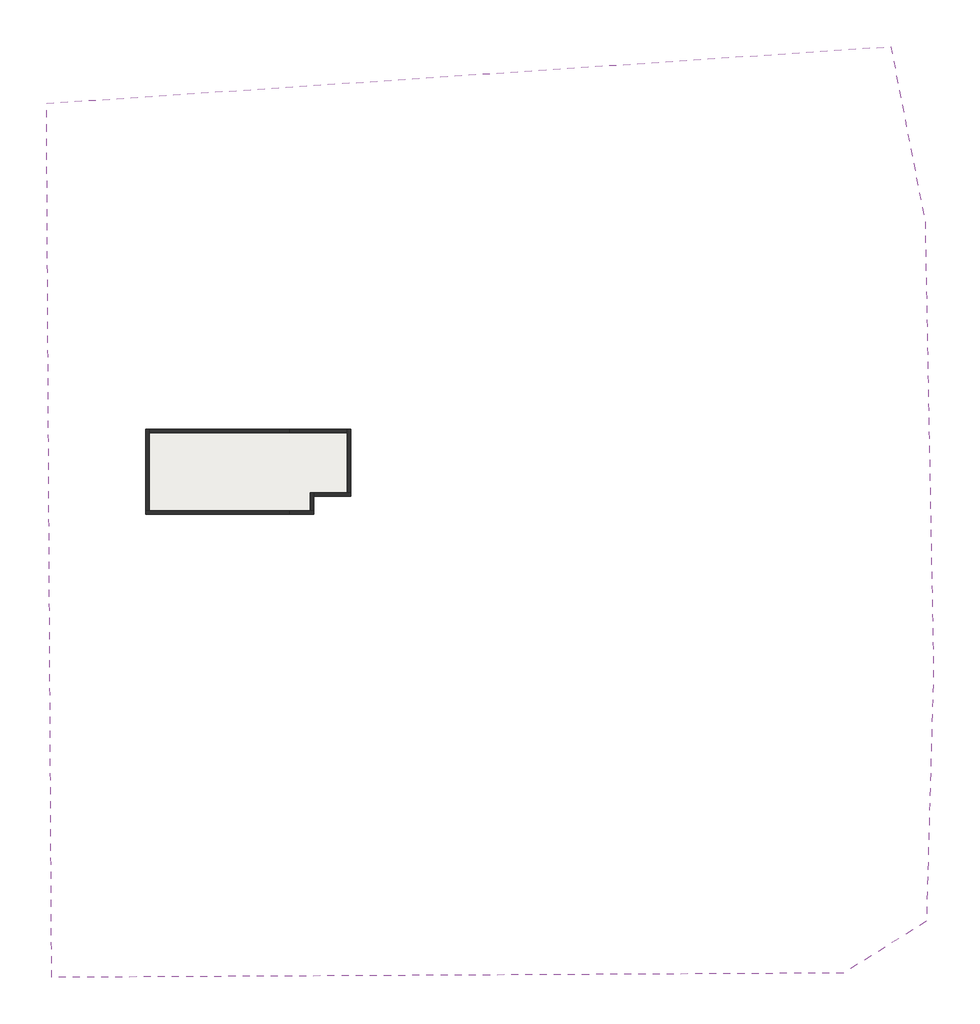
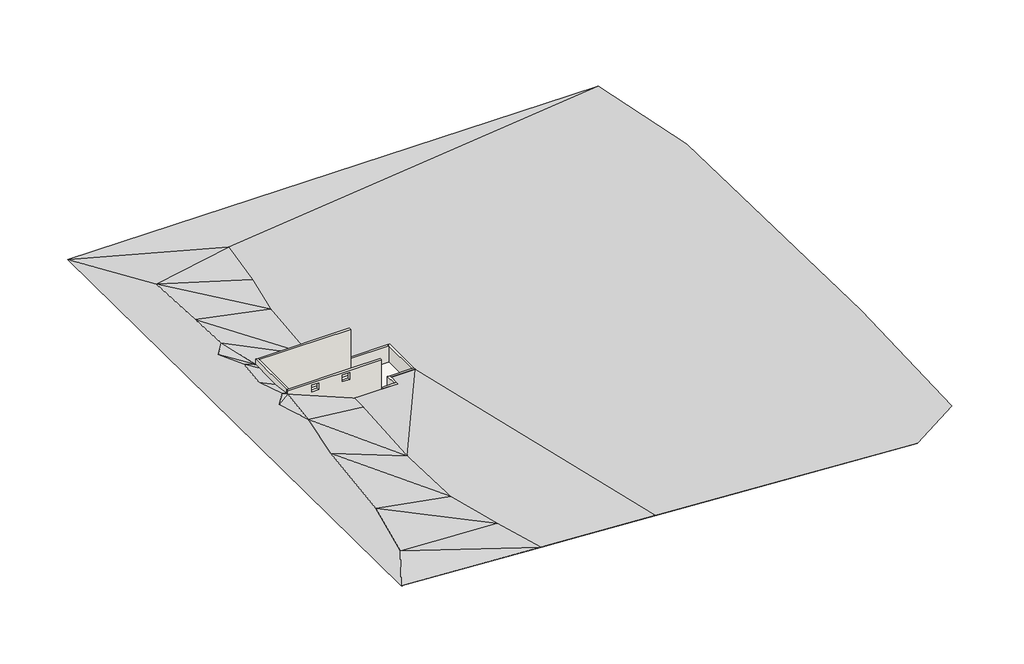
# One storey, incomplete: 8 walls, 1 proxy, 1 slab.
"""IFC4 building model written with IfcOpenShell, lengths in millimetres."""

from ifc_helpers import new_model, si_unit, frame, origin, place, context, project, spatial, polyline, outline, extrude, faceted_brep, triangles, element, save

model = new_model("IFC4")

# Units and contexts
model_context = context("Model", 3, world=origin())
ifc_project = project(units=[si_unit("LENGTHUNIT", "METRE", prefix="MILLI")], contexts=[model_context])

# Site, building, storey
site = spatial("IfcSite", under=ifc_project)
building = spatial("IfcBuilding", under=site)
storey = spatial("IfcBuildingStorey", under=building, Name="00 基礎", Elevation=-6200.0)

# Proxy
placement = place(None, origin())
element("IfcBuildingElementProxy", 1, Name="Building Element Proxy", at=placement, inside=storey, context=model_context, shape_type="Tessellation", body=[
    triangles([(-14965.9388214, 28798.1026611, -150.0000011), (-14529.5201111, -45342.6834961, -150.0000011), (52630.4572632, -44975.0687256, -4300.0000328), (59655.572644, -40578.2719849, -4300.0000328), (60256.7964111, -19268.1657532, -4300.0000328), (59546.2583862, 18748.4532898, -4300.0000328), (56633.7477905, 33612.3250854, -4300.0000328), (10852.9445251, 1150.8362223, -4046.0030365), (10852.9445251, -3616.8292328, -4045.7914215), (10852.9445251, -4549.1638939, -4045.7914215), (7702.9443558, -4549.1638939, -4029.3464951), (7702.9443558, -6049.1639053, -4029.3464951), (2081.679332, -6049.1639053, -4000.0000305), (-6547.0556076, -6049.1639053, -442.9919646), (-6547.0556076, -5886.2348969, -442.9919646), (-6547.0556076, -3182.6324799, -834.3541592), (-6547.0556076, 344.536964, -732.2365551), (-6547.0556076, 1150.8362223, -734.849477), (2032.1528492, 1150.8362223, -4000.0000305), (-8473.7333542, 11435.2845612, -150.0000011), (-9614.8782349, 4243.3642456, -150.0000011), (-9997.4758118, 854.6418743, -150.0000011), (-12457.0326599, 1873.9914276, -150.0000011), (-10106.7900696, -4392.4121246, -150.0000011), (-9942.8198456, -7015.9391968, -150.0000011), (-12754.9121521, -7576.1712799, -150.0000011), (-9399.5750977, -30761.8432617, -150.0000011), (-12604.6062103, -15971.4576782, -150.0000011), (-11184.3266235, -39378.8754272, -150.0000011), (-7260.2905609, -11812.0824921, -150.0000011), (-8391.993576, -18891.7247772, -150.0000011), (-7806.8583618, -11510.2125458, -150.0000011), (-8576.3991806, -7671.8206741, -150.0000011), (-8576.3991806, -6032.1166901, -150.0000011), (-7257.8075729, -5986.7706207, -150.0000011), (-8412.4283752, -2862.0212357, -150.0000011), (-8084.4879272, 1237.2395966, -150.0000011), (-8200.8500107, 6009.2727356, -150.0000011), (-8771.2669373, 19720.6125549, -150.0000011), (4677.1284668, 26671.248761, -4000.0000305), (3806.9382683, 19765.5167908, -4000.0000305), (2682.9042618, 13752.7779877, -4000.0000305), (2009.9116196, 3762.8964798, -4000.0000305), (2081.679332, -8054.418251, -4000.0000305), (1563.8099247, -18825.6404388, -4000.0000305), (1826.4125004, -28189.9490845, -4000.0000305), (3734.1773026, -35329.2342407, -4000.0000305), (5677.5982132, -41880.4669189, -4000.0000305), (59546.2583862, 2205.9128826, -4300.0000328), (20090.3388245, -42515.4607178, -4300.0000328)], [[2, 29, 27], [29, 2, 48], [27, 29, 47], [2, 27, 28], [25, 26, 32], [28, 26, 2], [28, 32, 26], [24, 26, 25], [28, 27, 31], [2, 26, 1], [30, 32, 28], [45, 30, 31], [32, 30, 33], [32, 33, 25], [35, 34, 33], [33, 34, 25], [14, 33, 30], [35, 33, 14], [14, 30, 44], [28, 31, 30], [46, 31, 27], [24, 25, 34], [23, 24, 22], [24, 23, 26], [21, 22, 37], [23, 22, 21], [1, 20, 39], [23, 20, 1], [20, 23, 21], [1, 39, 40], [22, 24, 36], [23, 1, 26], [35, 15, 16], [15, 35, 14], [35, 16, 36], [21, 38, 20], [22, 36, 37], [37, 18, 21], [18, 38, 21], [37, 36, 17], [43, 20, 38], [20, 42, 39], [36, 24, 34], [34, 35, 36], [17, 36, 16], [50, 45, 46], [45, 31, 46], [48, 47, 29], [47, 50, 46], [44, 13, 14], [12, 44, 45], [12, 13, 44], [48, 50, 47], [44, 30, 45], [5, 50, 3], [50, 48, 2], [5, 3, 4], [11, 12, 10], [45, 50, 10], [5, 10, 50], [45, 10, 12], [2, 3, 50], [18, 19, 43], [17, 18, 37], [42, 8, 41], [43, 8, 42], [41, 39, 42], [42, 20, 43], [43, 19, 8], [41, 40, 39], [9, 49, 8], [49, 9, 10], [6, 41, 8], [40, 7, 1], [7, 40, 6], [40, 41, 6], [6, 49, 5], [8, 49, 6], [10, 5, 49], [18, 43, 38], [46, 27, 47]], closed=False),
])

# Slab
element("IfcSlab", 2, ObjectType="建築地坪 1", at=placement, inside=storey, context=model_context, shape_type="SweptSolid", body=[
    extrude(outline(polyline([(10852.9445117, 1150.8362183), (10852.9445117, -4549.1637817), (7702.9445117, -4549.1637817), (7702.9445117, -6049.1637817), (-6547.0554883, -6049.1637817), (-6547.0554883, 1150.8362183), (10852.9445117, 1150.8362183)])), frame((0.0, 0.0, -6504.8), z_axis=(0.0, 0.0, 1.0), x_axis=(1.0, 0.0, 0.0)), (0.0, 0.0, 1.0), 304.8),
])

# Walls
element("IfcWall", 3, ObjectType="擋土牆 - 300mm 混凝土", at=placement, inside=storey, context=model_context, shape_type="Brep", body=[
    faceted_brep([(5602.9445117, -5749.1637817, 0.0), (5602.9445117, -5749.1637817, -4000.0), (5602.9445117, -5749.1637817, -6200.0), (-6247.0554883, -5749.1637817, -6200.0), (-6547.0554883, -5749.1637817, -6200.0), (-6547.0554883, -5749.1637817, 0.0), (-6247.0554883, -5749.1637817, 0.0), (1652.9445117, -5749.1637817, 0.0), (1852.9445117, -5749.1637817, 0.0), (-3472.0554883, -5749.1637817, -285.0), (-3472.0554883, -5749.1637817, -1200.0), (-2557.0554883, -5749.1637817, -1200.0), (-2557.0554883, -5749.1637817, -285.0), (537.9445117, -5749.1637817, -285.0), (537.9445117, -5749.1637817, -1200.0), (1452.9445117, -5749.1637817, -1200.0), (1452.9445117, -5749.1637817, -285.0), (5602.9445117, -6049.1637817, -6200.0), (5602.9445117, -6049.1637817, 0.0), (-6547.0554883, -6049.1637817, 0.0), (-6547.0554883, -6049.1637817, -6200.0), (-3472.0554883, -6049.1637817, -285.0), (-2557.0554883, -6049.1637817, -285.0), (-2557.0554883, -6049.1637817, -1200.0), (-3472.0554883, -6049.1637817, -1200.0), (537.9445117, -6049.1637817, -285.0), (1452.9445117, -6049.1637817, -285.0), (1452.9445117, -6049.1637817, -1200.0), (537.9445117, -6049.1637817, -1200.0), (5602.9445117, -5949.1637817, 0.0)], [[[0, 1, 2, 3, 4, 5, 6, 7, 8], [9, 10, 11, 12], [13, 14, 15, 16]], [[17, 18, 19, 20], [21, 22, 23, 24], [25, 26, 27, 28]], [[4, 3, 2, 17, 20]], [[0, 8, 7, 6, 5, 19, 18, 29]], [[5, 4, 20, 19]], [[0, 29, 18, 17, 2, 1]], [[10, 9, 21, 24]], [[11, 10, 24, 23]], [[12, 11, 23, 22]], [[9, 12, 22, 21]], [[14, 13, 25, 28]], [[15, 14, 28, 27]], [[16, 15, 27, 26]], [[13, 16, 26, 25]]]),
])
element("IfcWall", 4, ObjectType="擋土牆 - 300mm 混凝土", at=placement, inside=storey, context=model_context, shape_type="Brep", body=[
    faceted_brep([(-6247.0554883, -5749.1637817, -6200.0), (-6247.0554883, 850.8362183, -6200.0), (-6247.0554883, 1150.8362183, -6200.0), (-6247.0554883, 1150.8362183, 0.0), (-6247.0554883, 850.8362183, 0.0), (-6247.0554883, -2149.1637817, 0.0), (-6247.0554883, -2349.1637817, 0.0), (-6247.0554883, -5749.1637817, 0.0), (-6547.0554883, -5749.1637817, -6200.0), (-6547.0554883, -5749.1637817, 0.0), (-6547.0554883, 1150.8362183, 0.0), (-6547.0554883, 1150.8362183, -6200.0)], [[[0, 1, 2, 3, 4, 5, 6, 7]], [[8, 9, 10, 11]], [[2, 1, 0, 8, 11]], [[7, 6, 5, 4, 3, 10, 9]], [[3, 2, 11, 10]], [[0, 7, 9, 8]]]),
])
element("IfcWall", 5, ObjectType="擋土牆 - 300mm 混凝土", at=placement, inside=storey, context=model_context, shape_type="Brep", body=[
    faceted_brep([(-6247.0554883, 850.8362183, -6200.0), (5602.9445117, 850.8362183, -6200.0), (5602.9445117, 850.8362183, 0.0), (1852.9445117, 850.8362183, 0.0), (1652.9445117, 850.8362183, 0.0), (-1347.0554883, 850.8362183, 0.0), (-1547.0554883, 850.8362183, 0.0), (-3847.0554883, 850.8362183, 0.0), (-4047.0554883, 850.8362183, 0.0), (-6247.0554883, 850.8362183, 0.0), (-6247.0554883, 1150.8362183, -6200.0), (-6247.0554883, 1150.8362183, 0.0), (5602.9445117, 1150.8362183, 0.0), (5602.9445117, 1150.8362183, -6200.0), (5602.9445117, 1050.8362183, 0.0)], [[[0, 1, 2, 3, 4, 5, 6, 7, 8, 9]], [[10, 11, 12, 13]], [[1, 0, 10, 13]], [[2, 1, 13, 12, 14]], [[9, 8, 7, 6, 5, 4, 3, 2, 14, 12, 11]], [[0, 9, 11, 10]]]),
])
element("IfcWall", 6, ObjectType="基礎 - 300mm 混凝土", at=placement, inside=storey, context=model_context, shape_type="Brep", body=[
    faceted_brep([(5602.9445117, -6049.1637817, -6200.0), (7702.9445117, -6049.1637817, -6200.0), (7702.9445117, -6049.1637817, -4000.0), (5602.9445117, -6049.1637817, -4000.0), (5602.9445117, -5749.1637817, -6200.0), (5602.9445117, -5749.1637817, -4000.0), (7402.9445117, -5749.1637817, -4000.0), (7702.9445117, -5749.1637817, -4000.0), (7702.9445117, -5749.1637817, -6200.0), (7402.9445117, -5749.1637817, -6200.0)], [[[0, 1, 2, 3]], [[4, 5, 6, 7, 8, 9]], [[1, 0, 4, 9, 8]], [[3, 2, 7, 6, 5]], [[0, 3, 5, 4]], [[2, 1, 8, 7]]]),
])
element("IfcWall", 7, ObjectType="基礎 - 300mm 混凝土", at=placement, inside=storey, context=model_context, shape_type="Brep", body=[
    faceted_brep([(7702.9445117, -5749.1637817, -6200.0), (7702.9445117, -4549.1637817, -6200.0), (7702.9445117, -4249.1637817, -6200.0), (7702.9445117, -4249.1637817, -4000.0), (7702.9445117, -4549.1637817, -4000.0), (7702.9445117, -5749.1637817, -4000.0), (7402.9445117, -5749.1637817, -6200.0), (7402.9445117, -5749.1637817, -4000.0), (7402.9445117, -4249.1637817, -4000.0), (7402.9445117, -4249.1637817, -6200.0)], [[[0, 1, 2, 3, 4, 5]], [[6, 7, 8, 9]], [[2, 1, 0, 6, 9]], [[5, 4, 3, 8, 7]], [[3, 2, 9, 8]], [[0, 5, 7, 6]]]),
])
element("IfcWall", 8, ObjectType="基礎 - 300mm 混凝土", at=placement, inside=storey, context=model_context, shape_type="Brep", body=[
    faceted_brep([(7702.9445117, -4549.1637817, -6200.0), (10852.9445117, -4549.1637817, -6200.0), (10852.9445117, -4549.1637817, -4000.0), (7702.9445117, -4549.1637817, -4000.0), (7702.9445117, -4249.1637817, -6200.0), (7702.9445117, -4249.1637817, -4000.0), (10552.9445117, -4249.1637817, -4000.0), (10852.9445117, -4249.1637817, -4000.0), (10852.9445117, -4249.1637817, -6200.0), (10552.9445117, -4249.1637817, -6200.0)], [[[0, 1, 2, 3]], [[4, 5, 6, 7, 8, 9]], [[1, 0, 4, 9, 8]], [[3, 2, 7, 6, 5]], [[2, 1, 8, 7]], [[0, 3, 5, 4]]]),
])
element("IfcWall", 9, ObjectType="基礎 - 300mm 混凝土", at=placement, inside=storey, context=model_context, shape_type="Brep", body=[
    faceted_brep([(10852.9445117, -4249.1637817, -6200.0), (10852.9445117, 1150.8362183, -6200.0), (10852.9445117, 1150.8362183, -4000.0), (10852.9445117, -4249.1637817, -4000.0), (10552.9445117, -4249.1637817, -6200.0), (10552.9445117, -4249.1637817, -4000.0), (10552.9445117, 850.8362183, -4000.0), (10552.9445117, 1150.8362183, -4000.0), (10552.9445117, 1150.8362183, -6200.0), (10552.9445117, 850.8362183, -6200.0)], [[[0, 1, 2, 3]], [[4, 5, 6, 7, 8, 9]], [[1, 0, 4, 9, 8]], [[3, 2, 7, 6, 5]], [[2, 1, 8, 7]], [[0, 3, 5, 4]]]),
])
element("IfcWall", 10, ObjectType="基礎 - 300mm 混凝土", at=placement, inside=storey, context=model_context, shape_type="SweptSolid", body=[
    extrude(outline(polyline([(5602.9445117, 1150.8362183), (10552.9445117, 1150.8362183), (10552.9445117, 850.8362183), (5602.9445117, 850.8362183), (5602.9445117, 1150.8362183)])), frame((0.0, 0.0, -6200.0), z_axis=(0.0, 0.0, 1.0), x_axis=(1.0, 0.0, 0.0)), (0.0, 0.0, 1.0), 2200.0),
])

save(model, "model.ifc")
